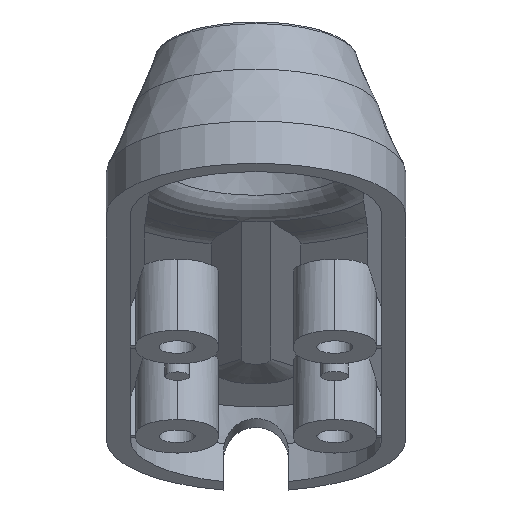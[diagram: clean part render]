
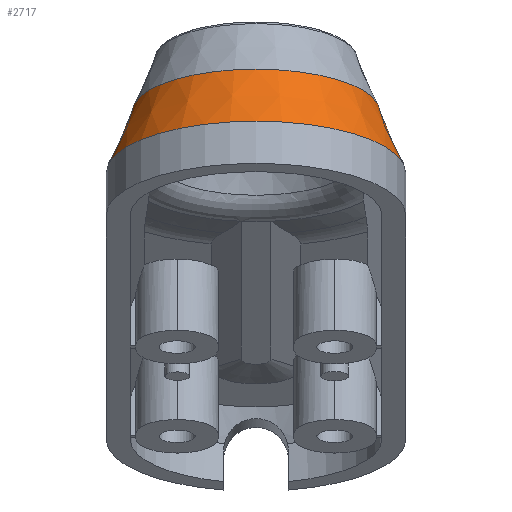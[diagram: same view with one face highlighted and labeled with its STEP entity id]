
A CAD part, top view. The second image highlights one B-rep face of the part: STEP entity #2717.
In plain terms, the highlighted conical face has half-angle 21.801 degrees and reference radius 12.5 mm.
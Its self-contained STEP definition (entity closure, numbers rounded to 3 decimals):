
#151=CIRCLE('',#2974,12.4);
#163=CIRCLE('',#3004,15.);
#172=CONICAL_SURFACE('',#3003,12.5,0.381);
#385=FACE_OUTER_BOUND('',#545,.T.);
#545=EDGE_LOOP('',(#2469,#2470,#2471,#2472));
#785=LINE('',#4796,#1027);
#787=LINE('',#4801,#1029);
#1027=VECTOR('',#3778,10.);
#1029=VECTOR('',#3784,10.);
#1265=VERTEX_POINT('',#4709);
#1268=VERTEX_POINT('',#4720);
#1289=VERTEX_POINT('',#4794);
#1290=VERTEX_POINT('',#4800);
#1647=EDGE_CURVE('',#1265,#1268,#151,.T.);
#1682=EDGE_CURVE('',#1268,#1289,#785,.T.);
#1684=EDGE_CURVE('',#1265,#1290,#787,.T.);
#1686=EDGE_CURVE('',#1289,#1290,#163,.T.);
#2469=ORIENTED_EDGE('',*,*,#1647,.T.);
#2470=ORIENTED_EDGE('',*,*,#1682,.T.);
#2471=ORIENTED_EDGE('',*,*,#1686,.T.);
#2472=ORIENTED_EDGE('',*,*,#1684,.F.);
#2717=ADVANCED_FACE('',(#385),#172,.T.);
#2974=AXIS2_PLACEMENT_3D('',#4722,#3702,#3703);
#3003=AXIS2_PLACEMENT_3D('',#4803,#3786,#3787);
#3004=AXIS2_PLACEMENT_3D('',#4804,#3788,#3789);
#3702=DIRECTION('center_axis',(0.,-0.94,
0.342));
#3703=DIRECTION('ref_axis',(-1.,0.,0.));
#3778=DIRECTION('',(-0.371,-0.872,0.318));
#3784=DIRECTION('',(0.371,-0.872,0.318));
#3786=DIRECTION('center_axis',(0.,-0.94,
0.342));
#3787=DIRECTION('ref_axis',(-1.,0.,0.));
#3788=DIRECTION('center_axis',(0.,0.94,-0.342));
#3789=DIRECTION('ref_axis',(-1.,0.,0.));
#4709=CARTESIAN_POINT('',(50.044,40.792,71.613));
#4720=CARTESIAN_POINT('',(25.244,40.792,71.613));
#4722=CARTESIAN_POINT('Origin',(37.644,40.792,71.613));
#4794=CARTESIAN_POINT('',(22.644,34.684,73.836));
#4796=CARTESIAN_POINT('',(27.644,46.43,69.561));
#4800=CARTESIAN_POINT('',(52.644,34.684,73.836));
#4801=CARTESIAN_POINT('',(47.644,46.43,69.561));
#4803=CARTESIAN_POINT('Origin',(37.644,40.557,71.699));
#4804=CARTESIAN_POINT('Origin',(37.644,34.684,73.836));
